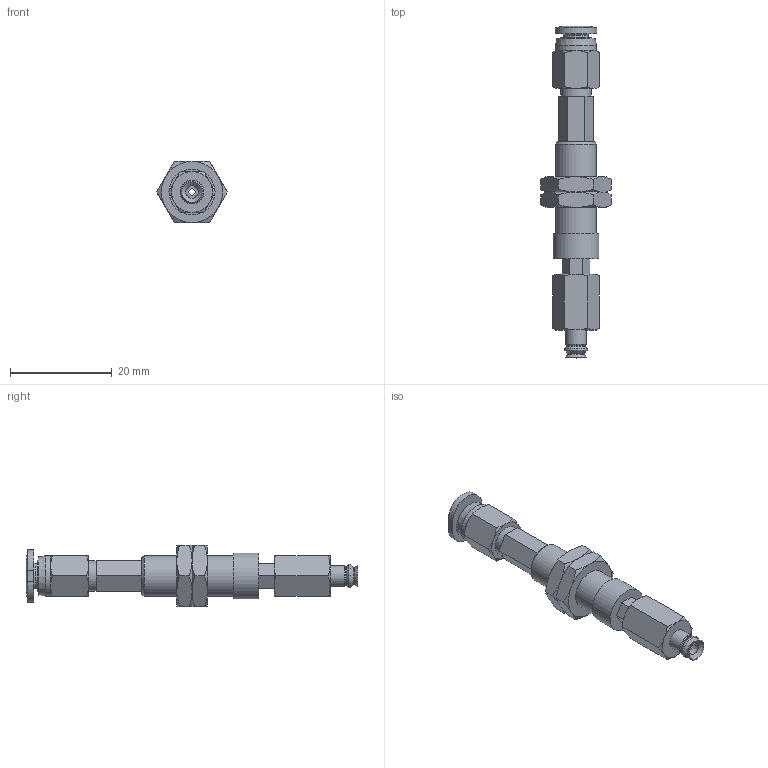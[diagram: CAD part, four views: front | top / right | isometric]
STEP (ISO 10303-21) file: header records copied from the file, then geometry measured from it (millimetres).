
FILE_DESCRIPTION(('STEP AP203'),'1');
FILE_NAME('-O.stp','2025-08-27T06:06:57',(' '),(' '),'Spatial InterOp 3D',' ',' ');
FILE_SCHEMA(('CONFIG_CONTROL_DESIGN'));
Length unit declared in the file: millimetre
Products named in the file (7): BNABPJTH-4-3-※-O; ADAPTER; NAPFTH-2A-3-MBODY; Nut-2A-3-h; NAPFTH-2A-3-FBODY; BPJG-4-※; PC-C_04-M3
Assembly tree (7 placements, depth 2):
  BNABPJTH-4-3-※-O
    ADAPTER
    NAPFTH-2A-3-MBODY
    Nut-2A-3-h  x2
    NAPFTH-2A-3-FBODY
    BPJG-4-※
    PC-C_04-M3
Bounding box: 13.86 x 65.27 x 12 mm (x, y, z)
Volume: 2643.1 mm3; surface area: 3927 mm2
Topology: 6 solids, 8 shells, 175 faces, 372 edges, 225 vertices
Faces by surface type: plane 70, cone 65, cylinder 22, torus 11, bspline 4, revolution 3
Full cylindrical faces by diameter (mm): 1.2 x2, 2 x2, 2.4 x1, 2.459 x1, 2.5 x2, 3 x3, 4 x1, 4.9 x1, 6 x1, 6.1 x1, 7.188 x2, 8 x2, 9 x1
Entity records: 4466 total; most frequent: CARTESIAN_POINT 1196, DIRECTION 603, ORIENTED_EDGE 528, EDGE_CURVE 265, AXIS2_PLACEMENT_3D 258, EDGE_LOOP 222, VERTEX_POINT 185, FACE_OUTER_BOUND 122
